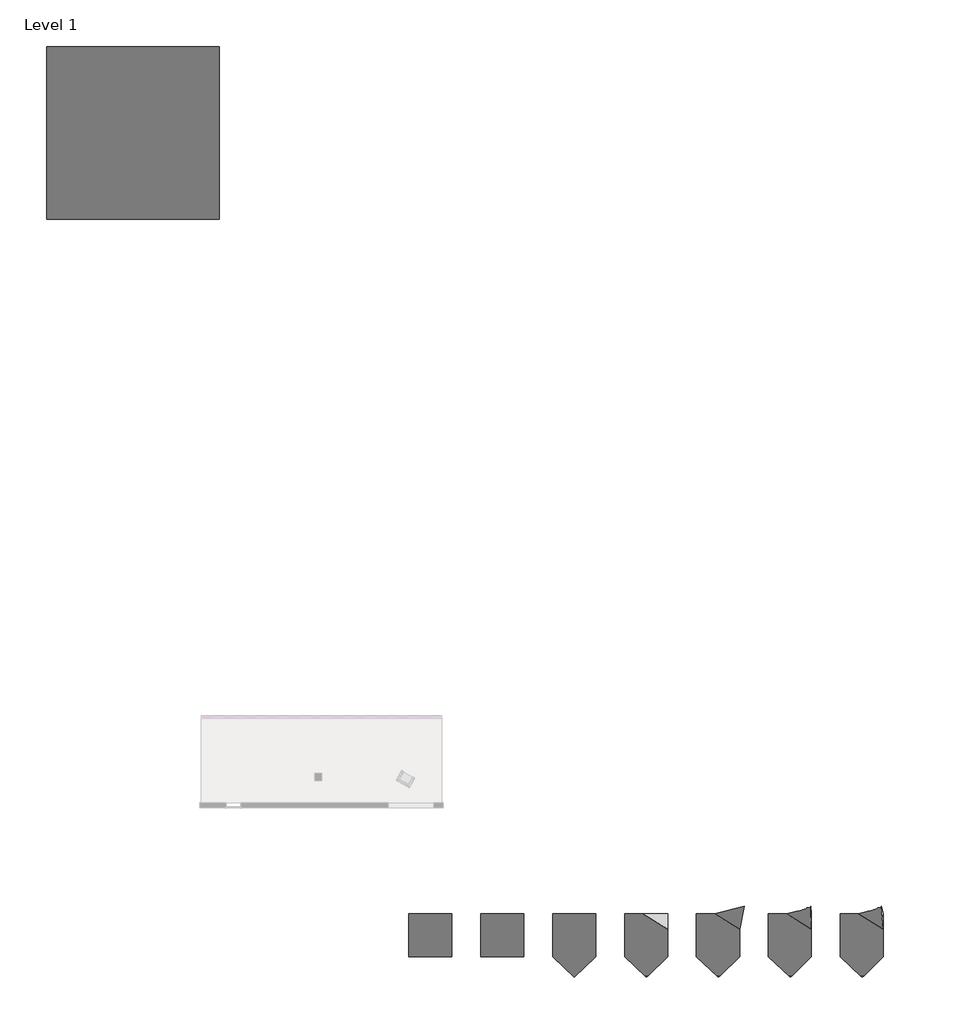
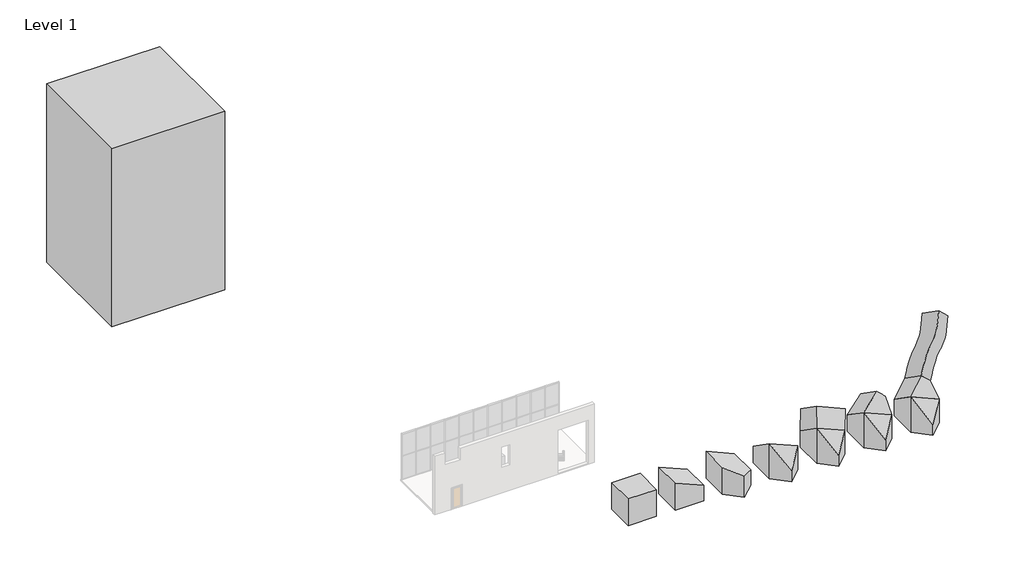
# One storey, part 3 of 4: 2 proxies.
"""IFC4 building model written with IfcOpenShell, lengths in millimetres."""

from ifc_helpers import new_model, si_unit, frame, origin, origin_with_axes, place, context, project, spatial, polyline, outline, extrude, faceted_brep, element, save
from ifc_brep_helpers import plane_surface, spline_curve, spline_surface, advanced_brep

model = new_model("IFC4")

# Units and contexts
model_context = context("Model", 3, world=origin())
ifc_project = project(units=[si_unit("LENGTHUNIT", "METRE", prefix="MILLI")], contexts=[model_context])

# Site, building, storey
site = spatial("IfcSite", under=ifc_project)
building = spatial("IfcBuilding", under=site)
storey = spatial("IfcBuildingStorey", under=building, Name="Level 1", Elevation=0.0)

# Proxies
placement = place(None, origin())
element("IfcBuildingElementProxy", 1, Name="Mass 1 : Mass 1", ObjectType="Mass 1 : Mass 1", at=placement, inside=storey, context=model_context, shape_type="SolidModel", body=[
    extrude(outline(polyline([(-12344.6969665, -22491.6729878), (-15087.8969665, -22491.6729878), (-15087.8969665, -19748.4729878), (-12344.6969665, -19748.4729878), (-12344.6969665, -22491.6729878)])), origin_with_axes(), (0.0, 0.0, 1.0), 2743.2),
    extrude(outline(polyline([(0.0, -10515.8969665), (0.0, -7772.6969665), (1567.4747506, -7772.6969665), (2743.2, -10515.8969665), (0.0, -10515.8969665)])), frame((0.0, -22491.6729878, 0.0), z_axis=(0.0, 1.0, 0.0), x_axis=(0.0, 0.0, 1.0)), (0.0, 0.0, 1.0), 2743.2),
    faceted_brep([(-3200.6969665, -22491.6729878, 0.0), (-3200.6969665, -19748.4729878, 0.0), (-3200.6969665, -19748.4729878, 1567.4747506), (-3200.6969665, -22491.6729878, 1567.4747506), (-5943.8969665, -19748.4729878, 0.0), (-5943.8969665, -19748.4729878, 2743.2), (-5943.8969665, -22491.6729878, 0.0), (-5943.8969665, -22491.6729878, 2743.2), (-4556.2327323, -23794.051533, 0.0), (-4556.2327323, -23794.051533, 2148.4523047)], [[[0, 1, 2, 3]], [[1, 4, 5, 2]], [[4, 6, 7, 5]], [[6, 8, 9, 7]], [[5, 7, 9, 3, 2]], [[8, 6, 4, 1, 0]], [[8, 0, 3, 9]]]),
    faceted_brep([(1371.3030335, -22491.6729878, 0.0), (1371.3030335, -19748.4729878, 0.0), (1371.3030335, -19748.4729878, 519.8090938), (1371.3030335, -22491.6729878, 2430.7540761), (-1371.8969665, -19748.4729878, 0.0), (-1371.8969665, -19748.4729878, 1695.5343431), (-1371.8969665, -22491.6729878, 0.0), (-1371.8969665, -22491.6729878, 3606.4793254), (15.7672677, -23794.051533, 0.0), (15.7672677, -23794.051533, 1074.2261523)], [[[0, 1, 2, 3]], [[1, 4, 5, 2]], [[4, 6, 7, 5]], [[6, 8, 9, 7]], [[8, 6, 4, 1, 0]], [[8, 0, 3, 9]], [[5, 7, 3, 2]], [[7, 9, 3]]]),
    faceted_brep([(5943.3030335, -22491.6729878, 0.0), (5943.3030335, -19748.4729878, 0.0), (5943.3030335, -19748.4729878, 519.8090938), (5943.3030335, -22491.6729878, 2430.7540761), (3200.1030335, -19748.4729878, 0.0), (3200.1030335, -19748.4729878, 1695.5343431), (3200.1030335, -22491.6729878, 0.0), (3200.1030335, -22491.6729878, 3606.4793254), (4587.7672677, -23794.051533, 0.0), (4587.7672677, -23794.051533, 1074.2261523)], [[[0, 1, 2, 3]], [[1, 4, 5, 2]], [[4, 6, 7, 5]], [[6, 8, 9, 7]], [[8, 6, 4, 1, 0]], [[8, 0, 3, 9]], [[5, 7, 3, 2]], [[7, 9, 3]]]),
    extrude(outline(polyline([(-1115.8722825, 1628.6617768), (1868.66723, 1628.6617767), (1115.8722825, -1628.6617768), (-1868.66723, -1628.6617767), (-1115.8722825, 1628.6617768)])), frame((4571.7030335, -21120.0729878, 2063.1442096), z_axis=(0.33176081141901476, 0.5392217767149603, 0.7740637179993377), x_axis=(0.9191367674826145, 0.0, -0.39393857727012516)), (0.0, 0.0, 1.0), 1828.8),
    faceted_brep([(10515.3030335, -22491.6729878, 0.0), (10515.3030335, -19748.4729878, 0.0), (10515.3030335, -19748.4729878, 519.8090938), (10515.3030335, -22491.6729878, 2430.7540761), (7772.1030335, -19748.4729878, 0.0), (7772.1030335, -19748.4729878, 1695.5343431), (7772.1030335, -22491.6729878, 0.0), (7772.1030335, -22491.6729878, 3606.4793254), (9159.7672677, -23794.051533, 0.0), (9159.7672677, -23794.051533, 1074.2261523)], [[[0, 1, 2, 3]], [[1, 4, 5, 2]], [[4, 6, 7, 5]], [[6, 8, 9, 7]], [[8, 6, 4, 1, 0]], [[8, 0, 3, 9]], [[5, 7, 3, 2]], [[7, 9, 3]]]),
    advanced_brep(
    [(7772.1030335, -19748.4729878, 1695.5343431), (7772.1030335, -22491.6729878, 3606.4793254), (9505.0069874, -21731.9262908, 4697.1110069), (9505.0069874, -18988.7262908, 2786.1660246), (10515.3030335, -22491.6729878, 2430.7540761), (10426.8298053, -21554.8353012, 3775.6034389), (10515.3030335, -19748.4729878, 519.8090938), (10426.8298053, -18811.6353012, 1864.6584566)],
    [
        (0, 1),
        (1, 2),
        (2, 3),
        (3, 0),
        (1, 4),
        (4, 5),
        (5, 2),
        (4, 6),
        (6, 7),
        (7, 5),
        (6, 0),
        (3, 7),
    ],
    [
        plane_surface(frame((7772.1030335, -21120.0729878, 2651.0068343), z_axis=(-0.6086074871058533, 0.45354422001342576, 0.6510718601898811), x_axis=(0.0, -0.8205359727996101, 0.5715948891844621))),
        spline_surface(1, 1, [[(7772.1030335, -22491.6729878, 3606.4793254), (9505.0069874, -21731.9262908, 4697.1110069)], [(10515.3030335, -22491.6729878, 2430.7540761), (10426.8298053, -21554.8353012, 3775.6034389)]], [2, 2], [2, 2], [0.0, 1.0], [0.0, 1.0]),
        plane_surface(frame((10515.3030335, -21120.0729878, 1475.2815849), z_axis=(0.9985462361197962, 0.03081004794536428, 0.04422844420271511), x_axis=(0.0, 0.8205359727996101, -0.5715948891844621))),
        spline_surface(1, 1, [[(10515.3030335, -19748.4729878, 519.8090938), (10426.8298053, -18811.6353012, 1864.6584566)], [(7772.1030335, -19748.4729878, 1695.5343431), (9505.0069874, -18988.7262908, 2786.1660246)]], [2, 2], [2, 2], [0.0, 1.0], [0.0, 1.0]),
        plane_surface(frame((9965.9183963, -20271.780796, 3280.8847318), z_axis=(0.5791638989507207, 0.46597051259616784, 0.668910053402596), x_axis=(0.7007892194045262, 0.1346283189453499, -0.7005495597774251))),
        plane_surface(frame((9143.7030335, -21120.0729878, 2063.1442096), z_axis=(-0.3317608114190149, -0.5392217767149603, -0.7740637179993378), x_axis=(0.9191367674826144, 0.0, -0.39393857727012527))),
    ],
    [
        (0, [[1, 2, 3, 4]]),
        (1, [[5, 6, 7, -2]]),
        (2, [[8, 9, 10, -6]]),
        (3, [[11, -4, 12, -9]]),
        (4, [[-7, -10, -12, -3]]),
        (5, [[-11, -8, -5, -1]]),
    ],
),
    faceted_brep([(15087.3030335, -22491.6729878, 0.0), (15087.3030335, -19748.4729878, 0.0), (15087.3030335, -19748.4729878, 519.8090938), (15087.3030335, -22491.6729878, 2430.7540761), (12344.1030335, -19748.4729878, 0.0), (12344.1030335, -19748.4729878, 1695.5343431), (12344.1030335, -22491.6729878, 0.0), (12344.1030335, -22491.6729878, 3606.4793254), (13731.7672677, -23794.051533, 0.0), (13731.7672677, -23794.051533, 1074.2261523)], [[[0, 1, 2, 3]], [[1, 4, 5, 2]], [[4, 6, 7, 5]], [[6, 8, 9, 7]], [[8, 6, 4, 1, 0]], [[8, 0, 3, 9]], [[5, 7, 3, 2]], [[7, 9, 3]]]),
    advanced_brep(
    [(12344.1030335, -19748.4729878, 1695.5343431), (12344.1030335, -22491.6729878, 3606.4793254), (13825.9681943, -21681.4630458, 4769.5520112), (13825.9681943, -18938.2630458, 2858.6070289), (15087.3030335, -22491.6729878, 2430.7540761), (14809.1007739, -21516.8544255, 3830.1257507), (15087.3030335, -19748.4729878, 519.8090938), (14809.1007739, -18773.6544255, 1919.1807684)],
    [
        (0, 1),
        (1, 2),
        (2, 3),
        (3, 0),
        (1, 4),
        (4, 5),
        (5, 2),
        (4, 6),
        (6, 7),
        (7, 5),
        (6, 0),
        (3, 7),
    ],
    [
        plane_surface(frame((12344.1030335, -21120.0729878, 2651.0068343), z_axis=(-0.691227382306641, 0.41305580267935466, 0.5929499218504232), x_axis=(0.0, -0.8205359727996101, 0.5715948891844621))),
        spline_surface(1, 1, [[(12344.1030335, -22491.6729878, 3606.4793254), (13825.9681943, -21681.4630458, 4769.5520112)], [(15087.3030335, -22491.6729878, 2430.7540761), (14809.1007739, -21516.8544255, 3830.1257507)]], [2, 2], [2, 2], [0.0, 1.0], [0.0, 1.0]),
        plane_surface(frame((15087.3030335, -21120.0729878, 1475.2815849), z_axis=(0.9869546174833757, 0.0920260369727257, 0.13210522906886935), x_axis=(0.0, 0.8205359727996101, -0.5715948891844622))),
        spline_surface(1, 1, [[(15087.3030335, -19748.4729878, 519.8090938), (14809.1007739, -18773.6544255, 1919.1807684)], [(12344.1030335, -19748.4729878, 1695.5343431), (13825.9681943, -18938.2630458, 2858.6070289)]], [2, 2], [2, 2], [0.0, 1.0], [0.0, 1.0]),
        plane_surface(frame((14317.5344841, -20227.5587357, 3344.3663898), z_axis=(0.5670066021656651, 0.47083028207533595, 0.6758863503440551), x_axis=(0.7177551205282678, 0.12017573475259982, -0.6858464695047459))),
        plane_surface(frame((13715.7030335, -21120.0729878, 2063.1442096), z_axis=(-0.3317608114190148, -0.5392217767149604, -0.7740637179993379), x_axis=(0.9191367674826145, 0.0, -0.39393857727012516))),
    ],
    [
        (0, [[1, 2, 3, 4]]),
        (1, [[5, 6, 7, -2]]),
        (2, [[8, 9, 10, -6]]),
        (3, [[11, -4, 12, -9]]),
        (4, [[-7, -10, -12, -3]]),
        (5, [[-11, -8, -5, -1]]),
    ],
),
    advanced_brep(
    [(13825.9681943, -21681.4630458, 4769.5520112), (14809.1007739, -21516.8544255, 3830.1257507), (18067.9182492, -18810.801365, 7714.719407), (17084.7856696, -18975.4099853, 8654.1456674), (14809.1007739, -18773.6544255, 1919.1807684), (18067.9182492, -16067.601365, 5803.7744247), (13825.9681943, -18938.2630458, 2858.6070289), (17084.7856696, -16232.2099853, 6743.2006851)],
    [
        (0, 1),
        (1, 2, spline_curve(3, [(14809.1007739, -21516.8544255, 3830.1257507), (15018.838476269, -21516.479103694, 4719.23250145), (15275.476851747, -21420.74043352, 5459.987514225), (16228.098431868, -20616.438462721, 5967.706931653), (16966.87837459, -19845.360184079, 5625.733652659), (17796.872203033, -19026.50194963, 6165.924855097), (17969.699371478, -18886.304326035, 6869.253360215), (18067.9182492, -18810.801365, 7714.719407)], [4, 2, 2, 4], [0.0, 0.32905966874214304, 0.6922398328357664, 1.0])),
        (2, 3),
        (3, 0, spline_curve(3, [(17084.7856696, -18975.4099853, 8654.1456674), (16986.566791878, -19050.912946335, 7808.679620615), (16813.739623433, -19191.11056993, 7105.351115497), (15983.74579499, -20009.968804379, 6565.159913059), (15244.965852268, -20781.047083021, 6907.133192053), (14292.344272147, -21585.34905382, 6399.413774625), (14035.705896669, -21681.087723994, 5658.65876195), (13825.9681943, -21681.4630458, 4769.5520112)], [4, 2, 2, 4], [0.0, 0.3077601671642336, 0.670940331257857, 1.0])),
        (1, 4),
        (4, 5, spline_curve(3, [(14809.1007739, -18773.6544255, 1919.1807684), (15018.838476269, -18773.279103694, 2808.28751915), (15275.476851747, -18677.54043352, 3549.042531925), (16228.098431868, -17873.238462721, 4056.761949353), (16966.87837459, -17102.160184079, 3714.788670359), (17796.872203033, -16283.30194963, 4254.979872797), (17969.699371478, -16143.104326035, 4958.308377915), (18067.9182492, -16067.601365, 5803.7744247)], [4, 2, 2, 4], [0.0, 0.32905966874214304, 0.6922398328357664, 1.0])),
        (5, 2),
        (4, 6),
        (6, 7, spline_curve(3, [(13825.9681943, -18938.2630458, 2858.6070289), (14035.705896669, -18937.887723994, 3747.71377965), (14292.344272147, -18842.14905382, 4488.468792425), (15244.965852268, -18037.847083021, 4996.188209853), (15983.74579499, -17266.768804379, 4654.214930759), (16813.739623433, -16447.91056993, 5194.406133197), (16986.566791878, -16307.712946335, 5897.734638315), (17084.7856696, -16232.2099853, 6743.2006851)], [4, 2, 2, 4], [0.0, 0.32905966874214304, 0.6922398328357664, 1.0])),
        (7, 5),
        (6, 0),
        (3, 7),
    ],
    [
        spline_surface(3, 3, [[(13825.9681943, -21681.4630458, 4769.5520112), (14035.70589667, -21681.087723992, 5658.658761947), (14292.344272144, -21585.349053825, 6399.413774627), (15244.965852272, -20781.047083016, 6907.133192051), (15983.745794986, -20009.968804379, 6565.159913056), (16813.739623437, -19191.11056993, 7105.3511155), (16986.566791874, -19050.912946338, 7808.679620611), (17084.7856696, -18975.4099853, 8654.1456674)], [(14153.679054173, -21626.593505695, 4456.409924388), (14363.416756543, -21626.218183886, 5345.516675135), (14620.055132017, -21530.47951372, 6086.271687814), (15572.676712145, -20726.17754291, 6593.991105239), (16311.45665486, -19955.099264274, 6252.017826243), (17141.45048331, -19136.241029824, 6792.209028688), (17314.277651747, -18996.043406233, 7495.537533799), (17412.496529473, -18920.540445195, 8341.003580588)], [(14481.389914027, -21571.723965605, 4143.267837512), (14691.127616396, -21571.348643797, 5032.374588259), (14947.765991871, -21475.60997363, 5773.129601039), (15900.387571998, -20671.308002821, 6280.849018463), (16639.167514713, -19900.229724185, 5938.875739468), (17469.161343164, -19081.371489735, 6479.066941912), (17641.988511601, -18941.173866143, 7182.395447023), (17740.207389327, -18865.670905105, 8027.861493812)], [(14809.1007739, -21516.8544255, 3830.1257507), (15018.83847627, -21516.479103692, 4719.232501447), (15275.476851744, -21420.740433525, 5459.987514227), (16228.098431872, -20616.438462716, 5967.706931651), (16966.878374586, -19845.360184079, 5625.733652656), (17796.872203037, -19026.50194963, 6165.9248551), (17969.699371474, -18886.304326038, 6869.253360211), (18067.9182492, -18810.801365, 7714.719407)]], [4, 4], [4, 2, 2, 4], [0.0, 1.0], [0.0, 0.32905966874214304, 0.6922398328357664, 1.0]),
        spline_surface(3, 3, [[(14809.1007739, -21516.8544255, 3830.1257507), (15018.83847627, -21516.479103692, 4719.232501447), (15275.476851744, -21420.740433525, 5459.987514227), (16228.098431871, -20616.438462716, 5967.706931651), (16966.878374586, -19845.360184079, 5625.733652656), (17796.872203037, -19026.50194963, 6165.9248551), (17969.699371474, -18886.304326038, 6869.253360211), (18067.9182492, -18810.801365, 7714.719407)], [(14809.1007739, -20602.4544255, 3193.144089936), (15018.83847627, -20602.079103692, 4082.250840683), (15275.476851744, -20506.340433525, 4823.005853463), (16228.098431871, -19702.038462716, 5330.725270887), (16966.878374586, -18930.960184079, 4988.751991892), (17796.872203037, -18112.10194963, 5528.943194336), (17969.699371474, -17971.904326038, 6232.271699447), (18067.9182492, -17896.401365, 7077.737746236)], [(14809.1007739, -19688.0544255, 2556.162429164), (15018.83847627, -19687.679103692, 3445.269179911), (15275.476851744, -19591.940433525, 4186.02419269), (16228.098431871, -18787.638462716, 4693.743610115), (16966.878374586, -18016.560184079, 4351.770331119), (17796.872203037, -17197.70194963, 4891.961533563), (17969.699371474, -17057.504326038, 5595.290038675), (18067.9182492, -16982.001365, 6440.756085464)], [(14809.1007739, -18773.6544255, 1919.1807684), (15018.83847627, -18773.279103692, 2808.287519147), (15275.476851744, -18677.540433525, 3549.042531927), (16228.098431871, -17873.238462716, 4056.761949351), (16966.878374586, -17102.160184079, 3714.788670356), (17796.872203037, -16283.30194963, 4254.9798728), (17969.699371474, -16143.104326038, 4958.308377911), (18067.9182492, -16067.601365, 5803.7744247)]], [4, 4], [4, 2, 2, 4], [0.0, 1.0], [0.0, 0.32905966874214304, 0.6922398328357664, 1.0]),
        spline_surface(3, 3, [[(14809.1007739, -18773.6544255, 1919.1807684), (15018.83847627, -18773.279103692, 2808.287519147), (15275.476851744, -18677.540433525, 3549.042531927), (16228.098431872, -17873.238462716, 4056.761949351), (16966.878374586, -17102.160184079, 3714.788670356), (17796.872203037, -16283.30194963, 4254.9798728), (17969.699371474, -16143.104326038, 4958.308377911), (18067.9182492, -16067.601365, 5803.7744247)], [(14481.389914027, -18828.523965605, 2232.322855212), (14691.127616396, -18828.148643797, 3121.429605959), (14947.765991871, -18732.40997363, 3862.184618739), (15900.387571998, -17928.108002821, 4369.904036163), (16639.167514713, -17157.029724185, 4027.930757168), (17469.161343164, -16338.171489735, 4568.121959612), (17641.988511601, -16197.973866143, 5271.450464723), (17740.207389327, -16122.470905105, 6116.916511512)], [(14153.679054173, -18883.393505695, 2545.464942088), (14363.416756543, -18883.018183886, 3434.571692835), (14620.055132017, -18787.27951372, 4175.326705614), (15572.676712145, -17982.97754291, 4683.046123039), (16311.45665486, -17211.899264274, 4341.072843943), (17141.45048331, -16393.041029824, 4881.264046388), (17314.277651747, -16252.843406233, 5584.592551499), (17412.496529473, -16177.340445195, 6430.058598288)], [(13825.9681943, -18938.2630458, 2858.6070289), (14035.70589667, -18937.887723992, 3747.713779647), (14292.344272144, -18842.149053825, 4488.468792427), (15244.965852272, -18037.847083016, 4996.188209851), (15983.745794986, -17266.768804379, 4654.214930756), (16813.739623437, -16447.91056993, 5194.4061332), (16986.566791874, -16307.712946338, 5897.734638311), (17084.7856696, -16232.2099853, 6743.2006851)]], [4, 4], [4, 2, 2, 4], [0.0, 1.0], [0.0, 0.32905966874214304, 0.6922398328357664, 1.0]),
        spline_surface(3, 3, [[(13825.9681943, -18938.2630458, 2858.6070289), (14035.70589667, -18937.887723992, 3747.713779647), (14292.344272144, -18842.149053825, 4488.468792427), (15244.965852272, -18037.847083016, 4996.188209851), (15983.745794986, -17266.768804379, 4654.214930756), (16813.739623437, -16447.91056993, 5194.4061332), (16986.566791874, -16307.712946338, 5897.734638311), (17084.7856696, -16232.2099853, 6743.2006851)], [(13825.9681943, -19852.6630458, 3495.588689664), (14035.70589667, -19852.287723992, 4384.695440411), (14292.344272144, -19756.549053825, 5125.45045319), (15244.965852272, -18952.247083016, 5633.169870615), (15983.745794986, -18181.168804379, 5291.196591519), (16813.739623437, -17362.31056993, 5831.387793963), (16986.566791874, -17222.112946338, 6534.716299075), (17084.7856696, -17146.6099853, 7380.182345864)], [(13825.9681943, -20767.0630458, 4132.570350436), (14035.70589667, -20766.687723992, 5021.677101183), (14292.344272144, -20670.949053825, 5762.432113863), (15244.965852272, -19866.647083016, 6270.151531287), (15983.745794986, -19095.568804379, 5928.178252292), (16813.739623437, -18276.71056993, 6468.369454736), (16986.566791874, -18136.512946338, 7171.697959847), (17084.7856696, -18061.0099853, 8017.164006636)], [(13825.9681943, -21681.4630458, 4769.5520112), (14035.70589667, -21681.087723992, 5658.658761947), (14292.344272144, -21585.349053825, 6399.413774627), (15244.965852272, -20781.047083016, 6907.133192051), (15983.745794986, -20009.968804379, 6565.159913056), (16813.739623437, -19191.11056993, 7105.3511155), (16986.566791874, -19050.912946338, 7808.679620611), (17084.7856696, -18975.4099853, 8654.1456674)]], [4, 4], [4, 2, 2, 4], [0.0, 1.0], [0.0, 0.32905966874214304, 0.6922398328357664, 1.0]),
        plane_surface(frame((17576.3519594, -17521.5056751, 7228.960046), z_axis=(0.5670066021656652, 0.4708302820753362, 0.6758863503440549), x_axis=(0.0, 0.8205359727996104, -0.5715948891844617))),
        plane_surface(frame((14317.5344841, -20227.5587357, 3344.3663898), z_axis=(-0.5670066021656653, -0.47083028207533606, -0.675886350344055), x_axis=(0.0, 0.8205359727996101, -0.5715948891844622))),
    ],
    [
        (0, [[1, 2, 3, 4]]),
        (1, [[5, 6, 7, -2]]),
        (2, [[8, 9, 10, -6]]),
        (3, [[11, -4, 12, -9]]),
        (4, [[-7, -10, -12, -3]]),
        (5, [[-11, -8, -5, -1]]),
    ],
),
])
element("IfcBuildingElementProxy", 2, Name="Mass 2 : Mass 2", ObjectType="Mass 2 : Mass 2", at=placement, inside=storey, context=model_context, shape_type="SweptSolid", body=[
    extrude(outline(polyline([(-27154.301747, 24428.6951277), (-38127.101747, 24428.6951277), (-38127.101747, 35401.4951277), (-27154.301747, 35401.4951277), (-27154.301747, 24428.6951277)])), origin_with_axes(), (0.0, 0.0, 1.0), 18288.0),
])

save(model, "model.ifc")
